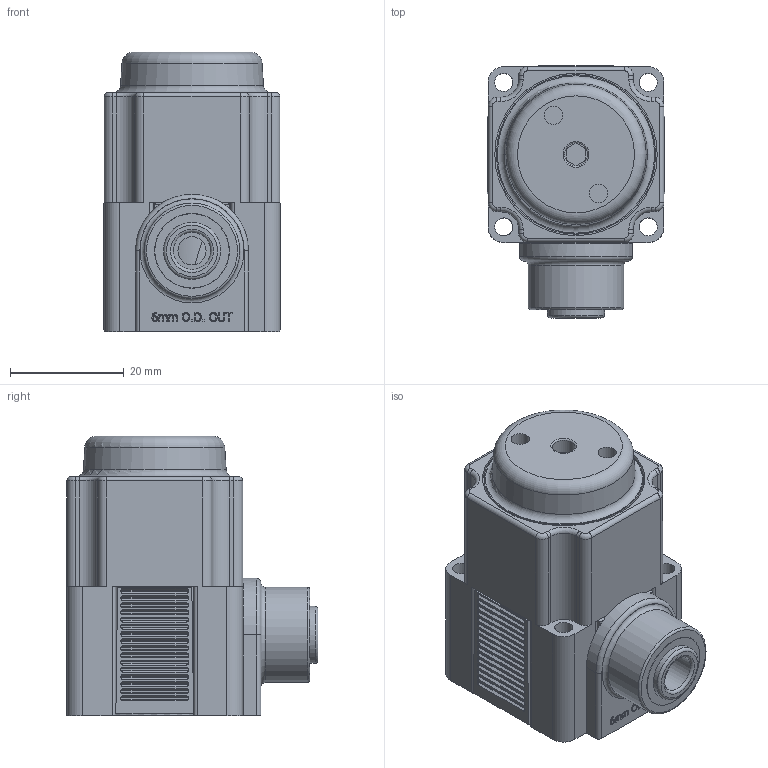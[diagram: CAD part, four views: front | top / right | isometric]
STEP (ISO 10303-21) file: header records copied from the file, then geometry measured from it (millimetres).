
FILE_DESCRIPTION(/* description */ (''),/* implementation_level */ '2;1');
FILE_NAME(/* name */ 'K:\Normteile INVENTOR\Air-Logic\Regulators\PR7000\PR 7___ 8 Push-In Fitting for 6mm O.D. Tube Out.igs.ipt.stp',/* time_stamp */ '2020-05-27T10:54:37+02:00',/* author */ ('Paul'),/* organization */ (''),/* preprocessor_version */ 'ST-DEVELOPER v18',/* originating_system */ 'Autodesk Inventor 2020',/* authorisation */ '');
FILE_SCHEMA (('AUTOMOTIVE_DESIGN { 1 0 10303 214 3 1 1 }'));
Length unit declared in the file: inch
Products named in the file (1): PR 7___ 8 Push-In Fitting for 6mm O.D. Tube Out.igs
Bounding box: 31.19 x 44.31 x 49.15 mm (x, y, z)
Volume: 42058.9 mm3; surface area: 14326.8 mm2
Topology: 1 solids, 1 shells, 742 faces, 1934 edges, 1267 vertices
Faces by surface type: plane 360, cylinder 253, bspline 103, torus 24, cone 2
Full cylindrical faces by diameter (mm): 3.175 x4, 3.226 x2, 4.013 x1, 4.953 x1, 6.553 x1, 9.169 x1, 9.398 x1, 10.033 x1, 12.903 x1, 13.081 x1, 13.157 x1, 16.764 x1, 26.264 x1, 28.047 x1, 28.575 x1
Entity records: 25647 total; most frequent: CARTESIAN_POINT 6674, ORIENTED_EDGE 3868, DIRECTION 3713, EDGE_CURVE 1934, AXIS2_PLACEMENT_3D 1403, VERTEX_POINT 1267, LINE 907, VECTOR 907
